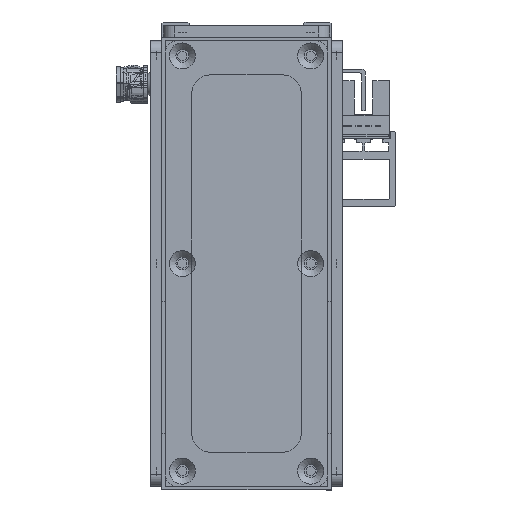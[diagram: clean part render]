
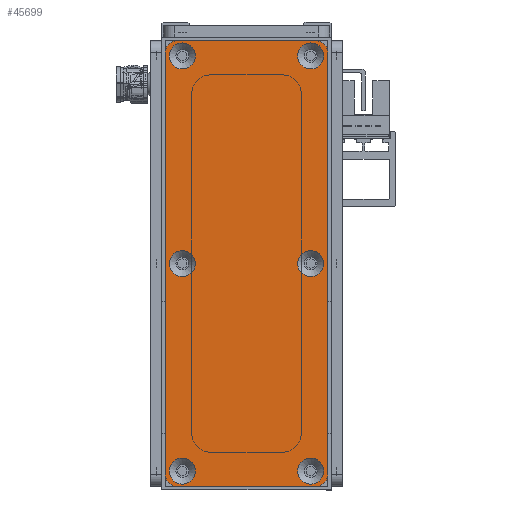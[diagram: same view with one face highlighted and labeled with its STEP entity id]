
A CAD part, front view. The second image highlights one B-rep face of the part: STEP entity #45699.
In plain terms, the highlighted planar face has unit normal (0, -1, 0) as drawn and (0, 0, 1) by its records, which use the part's own axes.
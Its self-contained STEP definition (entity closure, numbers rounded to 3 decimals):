
#766=FACE_BOUND('',#7535,.T.);
#767=FACE_BOUND('',#7536,.T.);
#768=FACE_BOUND('',#7537,.T.);
#769=FACE_BOUND('',#7538,.T.);
#770=FACE_BOUND('',#7539,.T.);
#771=FACE_BOUND('',#7540,.T.);
#1783=PLANE('',#49867);
#4754=FACE_OUTER_BOUND('',#7534,.T.);
#7534=EDGE_LOOP('',(#37537,#37538,#37539,#37540,#37541,#37542,#37543,#37544));
#7535=EDGE_LOOP('',(#37545));
#7536=EDGE_LOOP('',(#37546));
#7537=EDGE_LOOP('',(#37547));
#7538=EDGE_LOOP('',(#37548));
#7539=EDGE_LOOP('',(#37549));
#7540=EDGE_LOOP('',(#37550));
#10649=LINE('',#72724,#15556);
#10653=LINE('',#72736,#15560);
#10657=LINE('',#72748,#15564);
#10661=LINE('',#72758,#15568);
#15556=VECTOR('',#58172,10.);
#15560=VECTOR('',#58184,10.);
#15564=VECTOR('',#58196,10.);
#15568=VECTOR('',#58208,10.);
#19931=CIRCLE('',#49821,3.45);
#19934=CIRCLE('',#49826,3.45);
#19937=CIRCLE('',#49831,3.45);
#19940=CIRCLE('',#49836,3.45);
#19943=CIRCLE('',#49841,3.45);
#19946=CIRCLE('',#49846,3.45);
#19950=CIRCLE('',#49852,3.);
#19952=CIRCLE('',#49856,3.);
#19954=CIRCLE('',#49860,3.);
#19956=CIRCLE('',#49864,3.);
#22251=VERTEX_POINT('',#72652);
#22254=VERTEX_POINT('',#72662);
#22257=VERTEX_POINT('',#72672);
#22260=VERTEX_POINT('',#72682);
#22263=VERTEX_POINT('',#72692);
#22266=VERTEX_POINT('',#72702);
#22271=VERTEX_POINT('',#72715);
#22272=VERTEX_POINT('',#72717);
#22274=VERTEX_POINT('',#72723);
#22276=VERTEX_POINT('',#72729);
#22278=VERTEX_POINT('',#72735);
#22280=VERTEX_POINT('',#72741);
#22282=VERTEX_POINT('',#72747);
#22284=VERTEX_POINT('',#72753);
#27690=EDGE_CURVE('',#22251,#22251,#19931,.T.);
#27695=EDGE_CURVE('',#22254,#22254,#19934,.T.);
#27700=EDGE_CURVE('',#22257,#22257,#19937,.T.);
#27705=EDGE_CURVE('',#22260,#22260,#19940,.T.);
#27710=EDGE_CURVE('',#22263,#22263,#19943,.T.);
#27715=EDGE_CURVE('',#22266,#22266,#19946,.T.);
#27722=EDGE_CURVE('',#22272,#22271,#19950,.T.);
#27725=EDGE_CURVE('',#22274,#22272,#10649,.T.);
#27728=EDGE_CURVE('',#22276,#22274,#19952,.T.);
#27731=EDGE_CURVE('',#22278,#22276,#10653,.T.);
#27734=EDGE_CURVE('',#22280,#22278,#19954,.T.);
#27737=EDGE_CURVE('',#22282,#22280,#10657,.T.);
#27740=EDGE_CURVE('',#22284,#22282,#19956,.T.);
#27743=EDGE_CURVE('',#22271,#22284,#10661,.T.);
#37537=ORIENTED_EDGE('',*,*,#27743,.T.);
#37538=ORIENTED_EDGE('',*,*,#27740,.T.);
#37539=ORIENTED_EDGE('',*,*,#27737,.T.);
#37540=ORIENTED_EDGE('',*,*,#27734,.T.);
#37541=ORIENTED_EDGE('',*,*,#27731,.T.);
#37542=ORIENTED_EDGE('',*,*,#27728,.T.);
#37543=ORIENTED_EDGE('',*,*,#27725,.T.);
#37544=ORIENTED_EDGE('',*,*,#27722,.T.);
#37545=ORIENTED_EDGE('',*,*,#27690,.T.);
#37546=ORIENTED_EDGE('',*,*,#27695,.T.);
#37547=ORIENTED_EDGE('',*,*,#27700,.T.);
#37548=ORIENTED_EDGE('',*,*,#27705,.T.);
#37549=ORIENTED_EDGE('',*,*,#27710,.T.);
#37550=ORIENTED_EDGE('',*,*,#27715,.T.);
#45699=ADVANCED_FACE('',(#4754,#766,#767,#768,#769,#770,#771),#1783,.T.);
#49821=AXIS2_PLACEMENT_3D('',#72653,#58091,#58092);
#49826=AXIS2_PLACEMENT_3D('',#72663,#58103,#58104);
#49831=AXIS2_PLACEMENT_3D('',#72673,#58115,#58116);
#49836=AXIS2_PLACEMENT_3D('',#72683,#58127,#58128);
#49841=AXIS2_PLACEMENT_3D('',#72693,#58139,#58140);
#49846=AXIS2_PLACEMENT_3D('',#72703,#58151,#58152);
#49852=AXIS2_PLACEMENT_3D('',#72718,#58166,#58167);
#49856=AXIS2_PLACEMENT_3D('',#72730,#58178,#58179);
#49860=AXIS2_PLACEMENT_3D('',#72742,#58190,#58191);
#49864=AXIS2_PLACEMENT_3D('',#72754,#58202,#58203);
#49867=AXIS2_PLACEMENT_3D('',#72760,#58211,#58212);
#58091=DIRECTION('center_axis',(0.,0.,-1.));
#58092=DIRECTION('ref_axis',(1.,0.,0.));
#58103=DIRECTION('center_axis',(0.,0.,-1.));
#58104=DIRECTION('ref_axis',(1.,0.,0.));
#58115=DIRECTION('center_axis',(0.,0.,-1.));
#58116=DIRECTION('ref_axis',(1.,0.,0.));
#58127=DIRECTION('center_axis',(0.,0.,-1.));
#58128=DIRECTION('ref_axis',(1.,0.,0.));
#58139=DIRECTION('center_axis',(0.,0.,-1.));
#58140=DIRECTION('ref_axis',(1.,0.,0.));
#58151=DIRECTION('center_axis',(0.,0.,-1.));
#58152=DIRECTION('ref_axis',(1.,0.,0.));
#58166=DIRECTION('center_axis',(0.,0.,1.));
#58167=DIRECTION('ref_axis',(-1.,0.,0.));
#58172=DIRECTION('',(0.,1.,0.));
#58178=DIRECTION('center_axis',(0.,0.,1.));
#58179=DIRECTION('ref_axis',(0.,1.,0.));
#58184=DIRECTION('',(1.,0.,0.));
#58190=DIRECTION('center_axis',(0.,0.,1.));
#58191=DIRECTION('ref_axis',(1.,0.,0.));
#58196=DIRECTION('',(0.,-1.,0.));
#58202=DIRECTION('center_axis',(0.,0.,1.));
#58203=DIRECTION('ref_axis',(0.,-1.,0.));
#58208=DIRECTION('',(-1.,0.,0.));
#58211=DIRECTION('center_axis',(0.,0.,1.));
#58212=DIRECTION('ref_axis',(1.,0.,0.));
#72652=CARTESIAN_POINT('',(110.55,4.5,3.));
#72653=CARTESIAN_POINT('Origin',(114.,4.5,3.));
#72662=CARTESIAN_POINT('',(55.55,38.5,3.));
#72663=CARTESIAN_POINT('Origin',(59.,38.5,3.));
#72672=CARTESIAN_POINT('',(55.55,4.5,3.));
#72673=CARTESIAN_POINT('Origin',(59.,4.5,3.));
#72682=CARTESIAN_POINT('',(0.55,38.5,3.));
#72683=CARTESIAN_POINT('Origin',(4.,38.5,3.));
#72692=CARTESIAN_POINT('',(110.55,38.5,3.));
#72693=CARTESIAN_POINT('Origin',(114.,38.5,3.));
#72702=CARTESIAN_POINT('',(0.55,4.5,3.));
#72703=CARTESIAN_POINT('Origin',(4.,4.5,3.));
#72715=CARTESIAN_POINT('',(115.,43.,3.));
#72717=CARTESIAN_POINT('',(118.,40.,3.));
#72718=CARTESIAN_POINT('Origin',(115.,40.,3.));
#72723=CARTESIAN_POINT('',(118.,3.,3.));
#72724=CARTESIAN_POINT('',(118.,40.,3.));
#72729=CARTESIAN_POINT('',(115.,0.,3.));
#72730=CARTESIAN_POINT('Origin',(115.,3.,3.));
#72735=CARTESIAN_POINT('',(3.,0.,3.));
#72736=CARTESIAN_POINT('',(115.,0.,3.));
#72741=CARTESIAN_POINT('',(0.,3.,3.));
#72742=CARTESIAN_POINT('Origin',(3.,3.,3.));
#72747=CARTESIAN_POINT('',(0.,40.,3.));
#72748=CARTESIAN_POINT('',(0.,3.,3.));
#72753=CARTESIAN_POINT('',(3.,43.,3.));
#72754=CARTESIAN_POINT('Origin',(3.,40.,3.));
#72758=CARTESIAN_POINT('',(3.,43.,3.));
#72760=CARTESIAN_POINT('Origin',(59.,21.5,3.));
